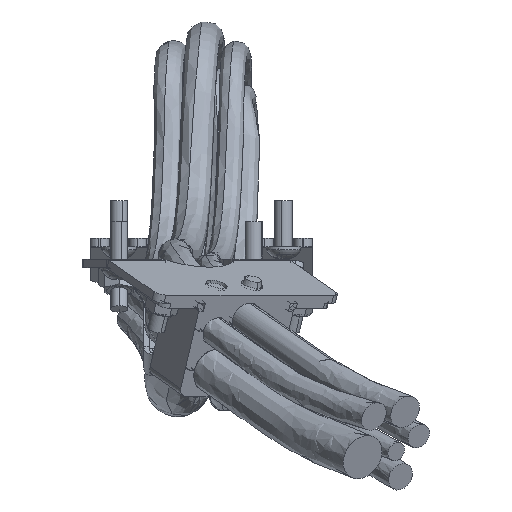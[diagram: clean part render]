
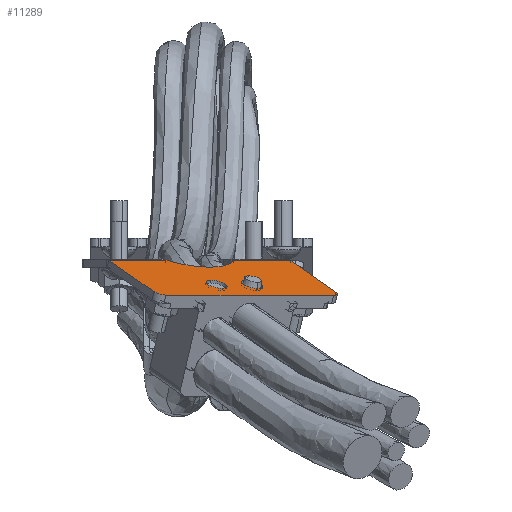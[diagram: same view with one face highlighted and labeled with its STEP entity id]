
A CAD part, top view. The second image highlights one B-rep face of the part: STEP entity #11289.
In plain terms, the highlighted planar face has unit normal (0.215, 0.927, 0.307).
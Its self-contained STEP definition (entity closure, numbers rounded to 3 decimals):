
#6442 = ORIENTED_EDGE ( 'NONE', *, *, #11924, .F. ) ;
#6443 = ORIENTED_EDGE ( 'NONE', *, *, #11921, .F. ) ;
#6444 = ORIENTED_EDGE ( 'NONE', *, *, #11920, .F. ) ;
#6445 = ORIENTED_EDGE ( 'NONE', *, *, #11851, .F. ) ;
#6446 = ORIENTED_EDGE ( 'NONE', *, *, #11922, .F. ) ;
#6447 = ORIENTED_EDGE ( 'NONE', *, *, #11926, .F. ) ;
#6448 = ORIENTED_EDGE ( 'NONE', *, *, #11925, .F. ) ;
#6449 = ORIENTED_EDGE ( 'NONE', *, *, #11923, .F. ) ;
#6450 = ORIENTED_EDGE ( 'NONE', *, *, #11698, .T. ) ;
#6451 = ORIENTED_EDGE ( 'NONE', *, *, #11896, .T. ) ;
#6452 = ORIENTED_EDGE ( 'NONE', *, *, #11694, .T. ) ;
#6453 = ORIENTED_EDGE ( 'NONE', *, *, #11904, .T. ) ;
#7358 = CARTESIAN_POINT ( 'NONE',  ( 153.284, -245.723, 1025.779 ) ) ;
#7359 = CARTESIAN_POINT ( 'NONE',  ( 157.272, -248.532, 1031.475 ) ) ;
#7552 = CARTESIAN_POINT ( 'NONE',  ( 137.709, -238.691, 1015.439 ) ) ;
#7554 = CARTESIAN_POINT ( 'NONE',  ( 117.908, -238.691, 1029.304 ) ) ;
#7569 = CARTESIAN_POINT ( 'NONE',  ( 180.982, -238.691, 985.139 ) ) ;
#7572 = CARTESIAN_POINT ( 'NONE',  ( 196.681, -249.75, 1007.559 ) ) ;
#7586 = CARTESIAN_POINT ( 'NONE',  ( 133.607, -249.75, 1051.725 ) ) ;
#7599 = CARTESIAN_POINT ( 'NONE',  ( 161.181, -238.691, 999.004 ) ) ;
#8520 = CARTESIAN_POINT ( 'NONE',  ( 137.66, -250.873, 1052.282 ) ) ;
#8521 = CARTESIAN_POINT ( 'NONE',  ( 195.819, -250.873, 1011.559 ) ) ;
#8632 = CARTESIAN_POINT ( 'NONE',  ( 165.571, -245.723, 1017.176 ) ) ;
#8633 = CARTESIAN_POINT ( 'NONE',  ( 169.559, -248.532, 1022.872 ) ) ;
#8796 = CARTESIAN_POINT ( 'NONE',  ( 195.819, -250.873, 1011.559 ) ) ;
#8797 = DIRECTION ( 'NONE',  ( -0.819, 0., 0.574 ) ) ;
#8885 = CARTESIAN_POINT ( 'NONE',  ( 167.565, -247.127, 1020.024 ) ) ;
#8897 = DIRECTION ( 'NONE',  ( -0.215, -0.927, -0.307 ) ) ;
#8898 = DIRECTION ( 'NONE',  ( 0.532, -0.375, 0.76 ) ) ;
#8914 = CARTESIAN_POINT ( 'NONE',  ( 155.278, -247.127, 1028.627 ) ) ;
#8916 = DIRECTION ( 'NONE',  ( -0.215, -0.927, -0.307 ) ) ;
#8917 = DIRECTION ( 'NONE',  ( 0.532, -0.375, 0.76 ) ) ;
#8951 = CARTESIAN_POINT ( 'NONE',  ( 178.115, -238.691, 987.146 ) ) ;
#8954 = CARTESIAN_POINT ( 'NONE',  ( 136.064, -249.75, 1050.004 ) ) ;
#8955 = DIRECTION ( 'NONE',  ( -0.215, -0.927, -0.307 ) ) ;
#8956 = DIRECTION ( 'NONE',  ( 0.532, -0.375, 0.76 ) ) ;
#8957 = CARTESIAN_POINT ( 'NONE',  ( 133.607, -249.75, 1051.725 ) ) ;
#8958 = DIRECTION ( 'NONE',  ( -0.532, 0.375, -0.76 ) ) ;
#8959 = CARTESIAN_POINT ( 'NONE',  ( 194.224, -249.75, 1009.28 ) ) ;
#8960 = DIRECTION ( 'NONE',  ( -0.215, -0.927, -0.307 ) ) ;
#8961 = DIRECTION ( 'NONE',  ( -0.532, 0.375, -0.76 ) ) ;
#8962 = CARTESIAN_POINT ( 'NONE',  ( 142.808, -234.016, 997.743 ) ) ;
#8963 = DIRECTION ( 'NONE',  ( 0.215, 0.927, 0.307 ) ) ;
#8964 = DIRECTION ( 'NONE',  ( 0.532, -0.375, 0.76 ) ) ;
#8965 = CARTESIAN_POINT ( 'NONE',  ( 178.115, -238.691, 987.146 ) ) ;
#8966 = DIRECTION ( 'NONE',  ( 0.819, 0., -0.574 ) ) ;
#8967 = CARTESIAN_POINT ( 'NONE',  ( 196.681, -249.75, 1007.559 ) ) ;
#8968 = DIRECTION ( 'NONE',  ( 0.819, 0., -0.574 ) ) ;
#8970 = DIRECTION ( 'NONE',  ( 0.532, -0.375, 0.76 ) ) ;
#9950 = CIRCLE ( 'NONE', #19173, 3.75 ) ;
#9956 = CIRCLE ( 'NONE', #19176, 3.75 ) ;
#10171 = LINE ( 'NONE', #8796, #10172 ) ;
#10172 = VECTOR ( 'NONE', #8797, 1000. ) ;
#10253 = CIRCLE ( 'NONE', #11026, 3.75 ) ;
#10265 = CIRCLE ( 'NONE', #11025, 3.75 ) ;
#10278 = VECTOR ( 'NONE', #8958, 1000. ) ;
#10285 = LINE ( 'NONE', #8957, #10278 ) ;
#10288 = LINE ( 'NONE', #8967, #10298 ) ;
#10289 = LINE ( 'NONE', #8965, #10296 ) ;
#10290 = CIRCLE ( 'NONE', #11036, 3. ) ;
#10291 = VECTOR ( 'NONE', #8966, 1000. ) ;
#10293 = CIRCLE ( 'NONE', #11028, 3. ) ;
#10294 = LINE ( 'NONE', #8951, #10291 ) ;
#10295 = CIRCLE ( 'NONE', #11037, 19. ) ;
#10296 = VECTOR ( 'NONE', #8968, 1000. ) ;
#10298 = VECTOR ( 'NONE', #8970, 1000. ) ;
#10595 = CARTESIAN_POINT ( 'NONE',  ( 155.278, -247.127, 1028.627 ) ) ;
#10596 = DIRECTION ( 'NONE',  ( -0.215, -0.927, -0.307 ) ) ;
#10597 = DIRECTION ( 'NONE',  ( 0.532, -0.375, 0.76 ) ) ;
#10605 = CARTESIAN_POINT ( 'NONE',  ( 167.565, -247.127, 1020.024 ) ) ;
#10606 = DIRECTION ( 'NONE',  ( -0.215, -0.927, -0.307 ) ) ;
#10607 = DIRECTION ( 'NONE',  ( 0.532, -0.375, 0.76 ) ) ;
#11025 = AXIS2_PLACEMENT_3D ( 'NONE', #8914, #8916, #8917 ) ;
#11026 = AXIS2_PLACEMENT_3D ( 'NONE', #8885, #8897, #8898 ) ;
#11028 = AXIS2_PLACEMENT_3D ( 'NONE', #8959, #8960, #8961 ) ;
#11036 = AXIS2_PLACEMENT_3D ( 'NONE', #8954, #8955, #8956 ) ;
#11037 = AXIS2_PLACEMENT_3D ( 'NONE', #8962, #8963, #8964 ) ;
#11289 = ADVANCED_FACE ( 'NONE', ( #13101, #13090, #13108 ), #15660, .F. ) ;
#11694 = EDGE_CURVE ( 'NONE', #23141, #23142, #9950, .T. ) ;
#11698 = EDGE_CURVE ( 'NONE', #23137, #23138, #9956, .T. ) ;
#11851 = EDGE_CURVE ( 'NONE', #23026, #23025, #10171, .T. ) ;
#11896 = EDGE_CURVE ( 'NONE', #23138, #23137, #10253, .T. ) ;
#11904 = EDGE_CURVE ( 'NONE', #23142, #23141, #10265, .T. ) ;
#11920 = EDGE_CURVE ( 'NONE', #23025, #23566, #10290, .T. ) ;
#11921 = EDGE_CURVE ( 'NONE', #23566, #23531, #10285, .T. ) ;
#11922 = EDGE_CURVE ( 'NONE', #23549, #23026, #10293, .T. ) ;
#11923 = EDGE_CURVE ( 'NONE', #23529, #23579, #10295, .T. ) ;
#11924 = EDGE_CURVE ( 'NONE', #23531, #23529, #10294, .T. ) ;
#11925 = EDGE_CURVE ( 'NONE', #23579, #23546, #10289, .T. ) ;
#11926 = EDGE_CURVE ( 'NONE', #23546, #23549, #10288, .T. ) ;
#12625 = AXIS2_PLACEMENT_3D ( 'NONE', #15661, #15662, #15663 ) ;
#13090 = FACE_BOUND ( 'NONE', #13410, .T. ) ;
#13101 = FACE_OUTER_BOUND ( 'NONE', #13294, .T. ) ;
#13108 = FACE_BOUND ( 'NONE', #13331, .T. ) ;
#13294 = EDGE_LOOP ( 'NONE', ( #6442, #6443, #6444, #6445, #6446, #6447, #6448, #6449 ) ) ;
#13331 = EDGE_LOOP ( 'NONE', ( #6452, #6453 ) ) ;
#13410 = EDGE_LOOP ( 'NONE', ( #6450, #6451 ) ) ;
#15660 = PLANE ( 'NONE',  #12625 ) ;
#15661 = CARTESIAN_POINT ( 'NONE',  ( 170.415, -233.267, 976.149 ) ) ;
#15662 = DIRECTION ( 'NONE',  ( -0.215, -0.927, -0.307 ) ) ;
#15663 = DIRECTION ( 'NONE',  ( 0.532, -0.375, 0.76 ) ) ;
#19173 = AXIS2_PLACEMENT_3D ( 'NONE', #10595, #10596, #10597 ) ;
#19176 = AXIS2_PLACEMENT_3D ( 'NONE', #10605, #10606, #10607 ) ;
#23025 = VERTEX_POINT ( 'NONE', #8520 ) ;
#23026 = VERTEX_POINT ( 'NONE', #8521 ) ;
#23137 = VERTEX_POINT ( 'NONE', #8632 ) ;
#23138 = VERTEX_POINT ( 'NONE', #8633 ) ;
#23141 = VERTEX_POINT ( 'NONE', #7358 ) ;
#23142 = VERTEX_POINT ( 'NONE', #7359 ) ;
#23529 = VERTEX_POINT ( 'NONE', #7552 ) ;
#23531 = VERTEX_POINT ( 'NONE', #7554 ) ;
#23546 = VERTEX_POINT ( 'NONE', #7569 ) ;
#23549 = VERTEX_POINT ( 'NONE', #7572 ) ;
#23566 = VERTEX_POINT ( 'NONE', #7586 ) ;
#23579 = VERTEX_POINT ( 'NONE', #7599 ) ;
